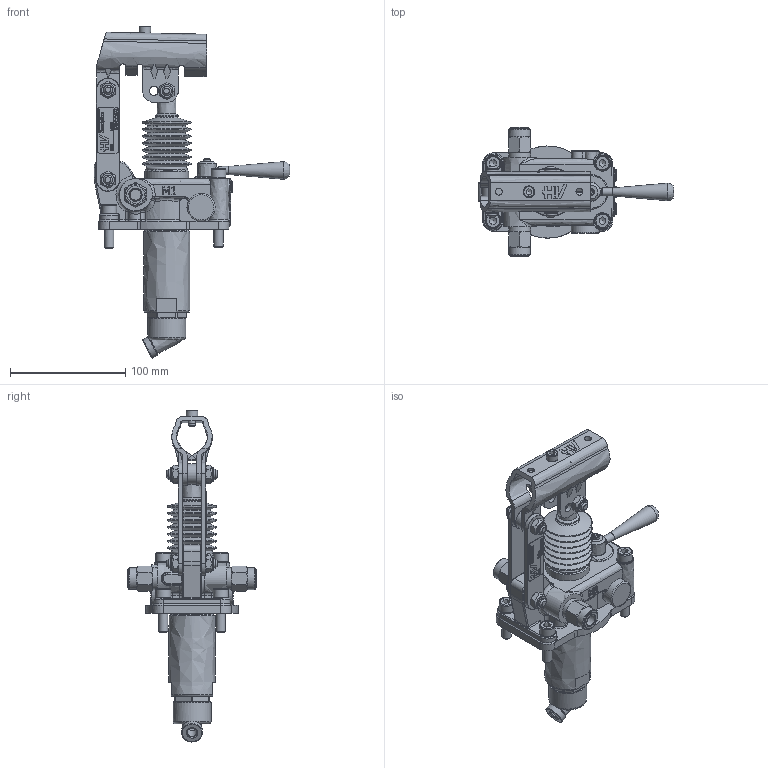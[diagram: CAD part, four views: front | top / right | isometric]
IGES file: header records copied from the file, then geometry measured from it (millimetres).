
Global section: file name: No Iges File Name specified; native system: Autodesk Inventor 2013; preprocessor: AutoDesk Inventor Iges Exporter R2013; author: christian.scardovi; date: 20240307.160812; units: millimetre
Bounding box: 170 x 112 x 288.31 mm (x, y, z)
Volume: 481727.3 mm3; surface area: 136899.5 mm2
Topology: 3 solids, 3 shells, 1687 faces, 4312 edges, 2735 vertices
Faces by surface type: bspline 1687
